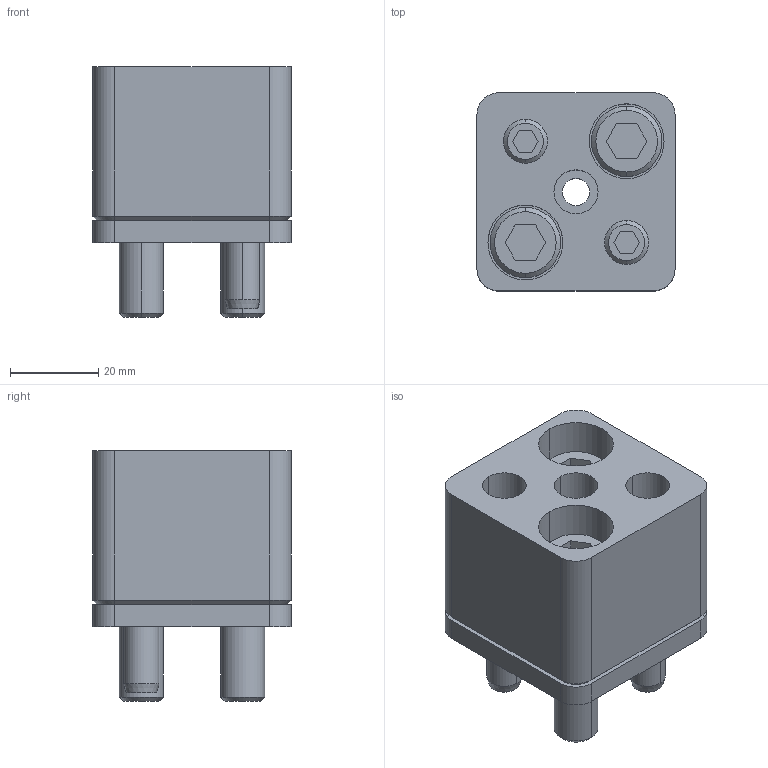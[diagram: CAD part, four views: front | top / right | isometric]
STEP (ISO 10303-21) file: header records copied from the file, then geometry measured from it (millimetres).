
FILE_DESCRIPTION(/* description */ (''),/* implementation_level */ '2;1');
FILE_NAME(/* name */ '3d_hsa-ap10_04176_r00.stp',/* time_stamp */ '2011-01-10T14:14:37+09:00',/* author */ ('MISUMI'),/* organization */ (''),/* preprocessor_version */ 'ST-DEVELOPER v11',/* originating_system */ 'UGS - NX 5.0',/* authorisation */ '');
FILE_SCHEMA (('CONFIG_CONTROL_DESIGN'));
Length unit declared in the file: millimetre
Products named in the file (1): 3d_hsa-ap10_04176_r00
Bounding box: 45 x 45 x 57 mm (x, y, z)
Volume: 72063.6 mm3; surface area: 27788.5 mm2
Topology: 8 solids, 8 shells, 163 faces, 364 edges, 232 vertices
Faces by surface type: plane 69, cylinder 64, cone 30
Entity records: 4686 total; most frequent: DIRECTION 840, CARTESIAN_POINT 814, ORIENTED_EDGE 728, EDGE_CURVE 364, AXIS2_PLACEMENT_3D 322, VERTEX_POINT 232, EDGE_LOOP 198, LINE 196
